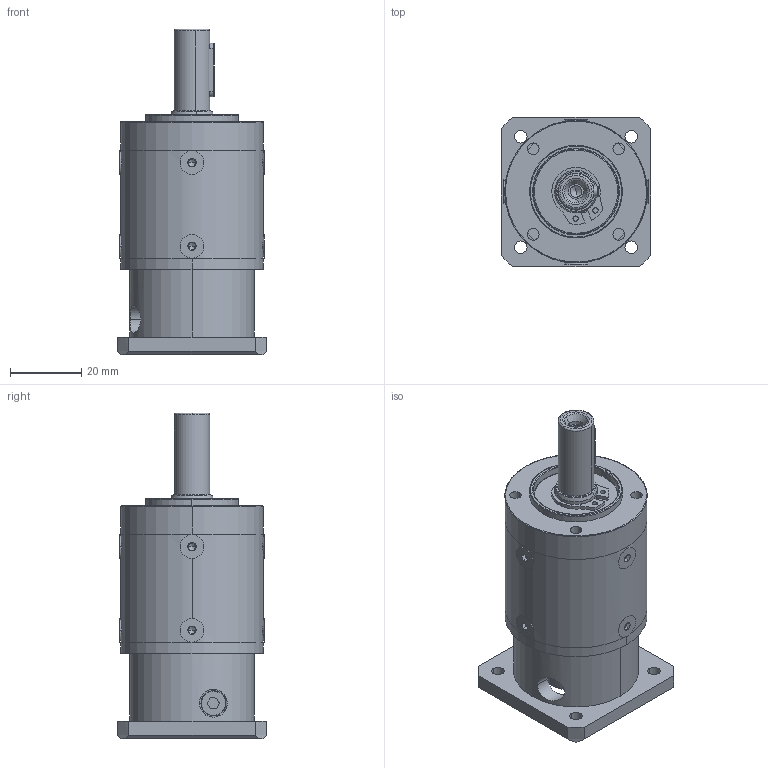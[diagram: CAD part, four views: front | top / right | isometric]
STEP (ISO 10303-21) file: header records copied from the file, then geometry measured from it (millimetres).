
FILE_DESCRIPTION (( 'STEP AP214' ), '1' );
FILE_NAME ('GSLL-040-0_ _-N017_-XX Single Stage.STEP', '2025-08-26T14:41:19', ( '' ), ( '' ), 'SwSTEP 2.0', 'SolidWorks 2020', '' );
FILE_SCHEMA (( 'AUTOMOTIVE_DESIGN' ));
Length unit declared in the file: millimetre
Products named in the file (1): GSLL-040-0_ _-N017_-XX Single Stage
Bounding box: 42 x 42 x 91.5 mm (x, y, z)
Volume: 53260.5 mm3; surface area: 39263.8 mm2
Topology: 27 solids, 27 shells, 1133 faces, 2999 edges, 1867 vertices
Faces by surface type: bspline 381, cylinder 327, plane 266, cone 159
Entity records: 51210 total; most frequent: CARTESIAN_POINT 22599, ORIENTED_EDGE 5842, DIRECTION 4686, EDGE_CURVE 2921, AXIS2_PLACEMENT_3D 2031, VERTEX_POINT 1867, EDGE_LOOP 1320, CIRCLE 1278
